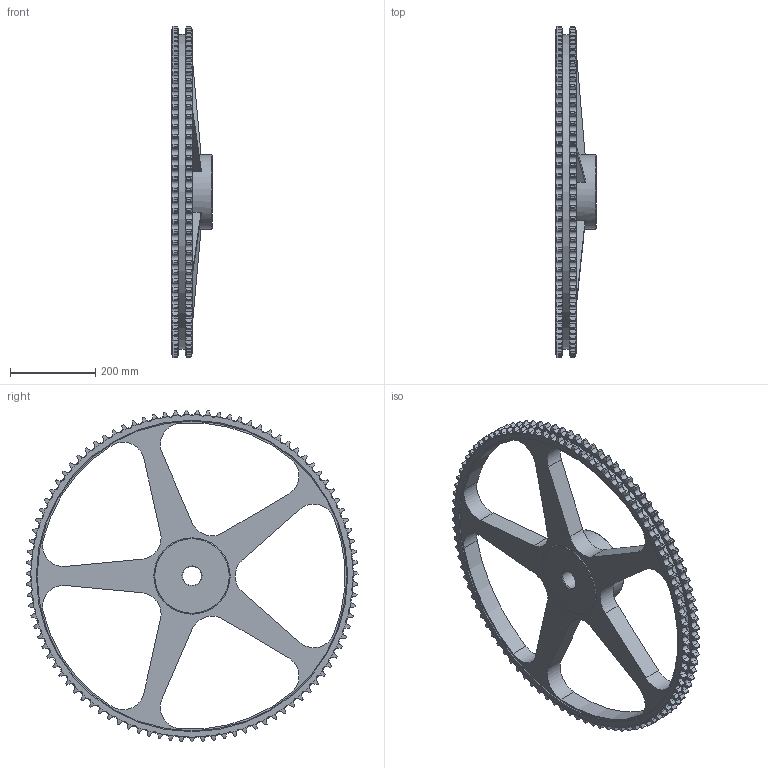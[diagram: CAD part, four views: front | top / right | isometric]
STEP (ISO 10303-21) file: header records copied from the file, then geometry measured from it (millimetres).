
FILE_DESCRIPTION(/* description */ (''),/* implementation_level */ '2;1');
FILE_NAME(/* name */ 'C:\Users\stagistacad\Desktop\12225095.stp',/* time_stamp */ '2018-06-21T14:40:16+02:00',/* author */ ('stagistacad'),/* organization */ (''),/* preprocessor_version */ 'ST-DEVELOPER v15.6',/* originating_system */ 'Autodesk Inventor 2015',/* authorisation */ '');
FILE_SCHEMA (('AUTOMOTIVE_DESIGN { 1 0 10303 214 3 1 1 }'));
Length unit declared in the file: millimetre
Products named in the file (1): 12225095
Bounding box: 95 x 779.29 x 779.2 mm (x, y, z)
Volume: 8240424.4 mm3; surface area: 816352.8 mm2
Topology: 1 solids, 1 shells, 1220 faces, 4002 edges, 2599 vertices
Faces by surface type: cylinder 791, torus 295, plane 127, cone 7
Full cylindrical faces by diameter (mm): 44 x1, 175 x2, 730.943 x2, 739.34 x1
Entity records: 48404 total; most frequent: CARTESIAN_POINT 14745, ORIENTED_EDGE 7972, DIRECTION 6494, EDGE_CURVE 3986, AXIS2_PLACEMENT_3D 2827, VERTEX_POINT 2596, CIRCLE 1606, B_SPLINE_CURVE_WITH_KNOTS 1530
